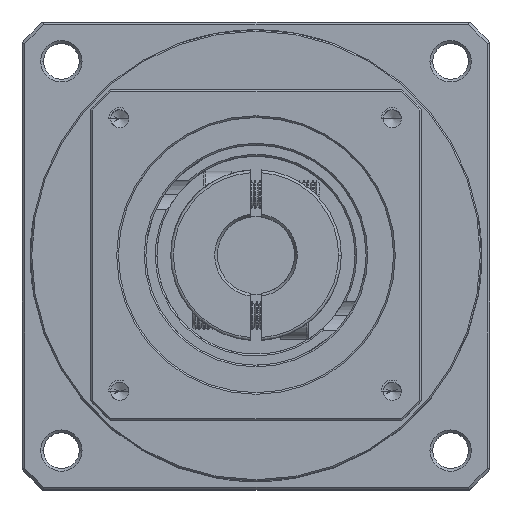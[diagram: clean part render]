
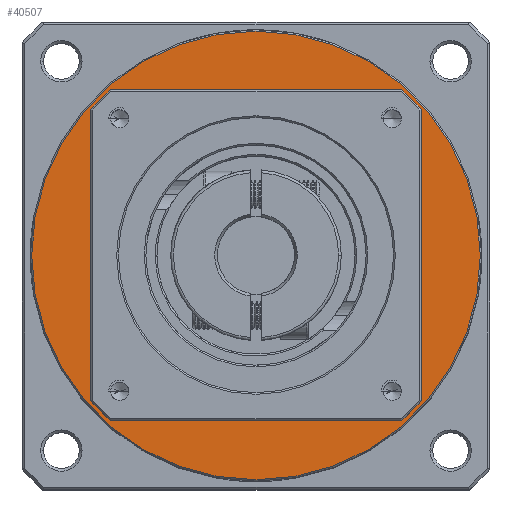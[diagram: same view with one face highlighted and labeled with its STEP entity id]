
A CAD part, top view. The second image highlights one B-rep face of the part: STEP entity #40507.
In plain terms, the highlighted planar face has unit normal (0, 0, 1).
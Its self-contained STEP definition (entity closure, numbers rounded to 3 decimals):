
#4992 = DIRECTION ( 'NONE',  ( 1., 0., 0. ) ) ;
#12485 = EDGE_CURVE ( 'NONE', #53594, #103758, #99602, .T. ) ;
#14045 = CARTESIAN_POINT ( 'NONE',  ( -125.661, 51.615, -25.577 ) ) ;
#14697 = AXIS2_PLACEMENT_3D ( 'NONE', #48649, #31363, #69161 ) ;
#15167 = ORIENTED_EDGE ( 'NONE', *, *, #12485, .T. ) ;
#17659 = AXIS2_PLACEMENT_3D ( 'NONE', #112801, #113215, #122461 ) ;
#17675 = EDGE_CURVE ( 'NONE', #75833, #118105, #56512, .T. ) ;
#19376 = ORIENTED_EDGE ( 'NONE', *, *, #17675, .F. ) ;
#22677 = CARTESIAN_POINT ( 'NONE',  ( -84.911, 51.615, -25.577 ) ) ;
#24075 = AXIS2_PLACEMENT_3D ( 'NONE', #41434, #108765, #25023 ) ;
#24337 = DIRECTION ( 'NONE',  ( 0., 0., 1. ) ) ;
#25023 = DIRECTION ( 'NONE',  ( 1., 0., 0. ) ) ;
#28129 = EDGE_CURVE ( 'NONE', #118105, #75833, #81344, .T. ) ;
#28277 = ORIENTED_EDGE ( 'NONE', *, *, #44898, .T. ) ;
#31363 = DIRECTION ( 'NONE',  ( 0., 0., 1. ) ) ;
#37749 = PLANE ( 'NONE',  #14697 ) ;
#39630 = CIRCLE ( 'NONE', #90130, 40.75 ) ;
#40507 = ADVANCED_FACE ( 'NONE', ( #90419, #51364 ), #37749, .T. ) ;
#41434 = CARTESIAN_POINT ( 'NONE',  ( -84.911, 51.615, -25.577 ) ) ;
#44898 = EDGE_CURVE ( 'NONE', #103758, #53594, #39630, .T. ) ;
#45323 = DIRECTION ( 'NONE',  ( 0., 0., 1. ) ) ;
#45583 = EDGE_LOOP ( 'NONE', ( #28277, #15167 ) ) ;
#48649 = CARTESIAN_POINT ( 'NONE',  ( -84.911, 51.615, -25.577 ) ) ;
#51364 = FACE_OUTER_BOUND ( 'NONE', #45583, .T. ) ;
#53594 = VERTEX_POINT ( 'NONE', #89146 ) ;
#54229 = DIRECTION ( 'NONE',  ( 1., 0., 0. ) ) ;
#54648 = ORIENTED_EDGE ( 'NONE', *, *, #28129, .F. ) ;
#56512 = CIRCLE ( 'NONE', #24075, 30. ) ;
#61730 = CARTESIAN_POINT ( 'NONE',  ( -114.911, 51.615, -25.577 ) ) ;
#69161 = DIRECTION ( 'NONE',  ( 1., 0., 0. ) ) ;
#75833 = VERTEX_POINT ( 'NONE', #121401 ) ;
#76141 = AXIS2_PLACEMENT_3D ( 'NONE', #22677, #24337, #4992 ) ;
#81344 = CIRCLE ( 'NONE', #17659, 30. ) ;
#89146 = CARTESIAN_POINT ( 'NONE',  ( -44.161, 51.615, -25.577 ) ) ;
#90130 = AXIS2_PLACEMENT_3D ( 'NONE', #122687, #45323, #54229 ) ;
#90419 = FACE_BOUND ( 'NONE', #120144, .T. ) ;
#99602 = CIRCLE ( 'NONE', #76141, 40.75 ) ;
#103758 = VERTEX_POINT ( 'NONE', #14045 ) ;
#108765 = DIRECTION ( 'NONE',  ( 0., 0., 1. ) ) ;
#112801 = CARTESIAN_POINT ( 'NONE',  ( -84.911, 51.615, -25.577 ) ) ;
#113215 = DIRECTION ( 'NONE',  ( 0., 0., 1. ) ) ;
#118105 = VERTEX_POINT ( 'NONE', #61730 ) ;
#120144 = EDGE_LOOP ( 'NONE', ( #54648, #19376 ) ) ;
#121401 = CARTESIAN_POINT ( 'NONE',  ( -54.911, 51.615, -25.577 ) ) ;
#122461 = DIRECTION ( 'NONE',  ( 1., 0., 0. ) ) ;
#122687 = CARTESIAN_POINT ( 'NONE',  ( -84.911, 51.615, -25.577 ) ) ;
